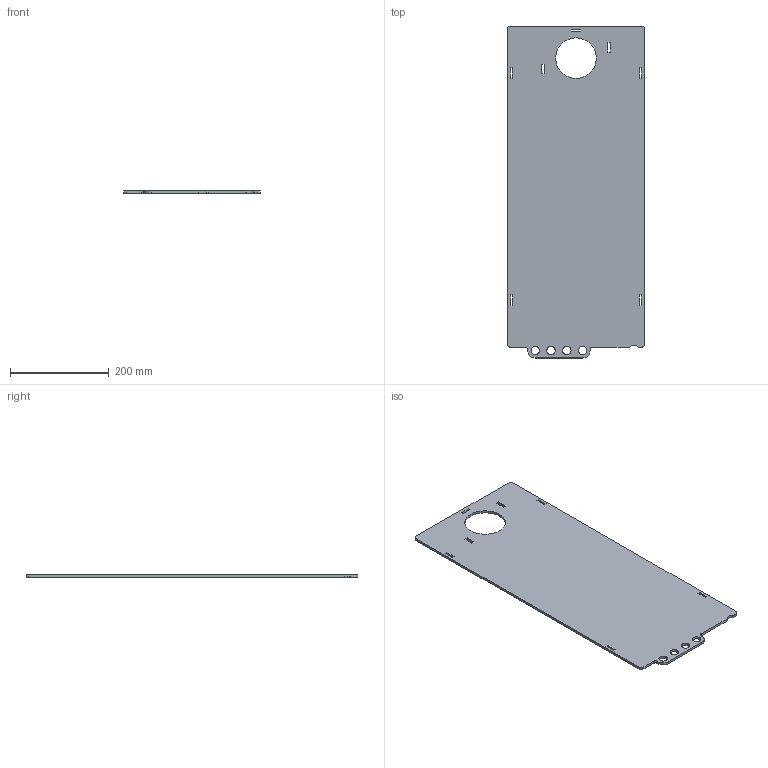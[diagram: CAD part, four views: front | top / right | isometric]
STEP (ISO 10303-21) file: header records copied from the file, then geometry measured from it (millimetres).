
FILE_DESCRIPTION((''),'2;1');
FILE_NAME('288081','2022-12-02T13:29:30',('vmorco'),(''),'CREO PARAMETRIC BY PTC INC, 2020454','CREO PARAMETRIC BY PTC INC, 2020454','');
FILE_SCHEMA(('AUTOMOTIVE_DESIGN { 1 0 10303 214 1 1 1 1 }'));
Length unit declared in the file: millimetre
Products named in the file (1): 288081
Bounding box: 277 x 672 x 5 mm (x, y, z)
Volume: 879051.8 mm3; surface area: 365148.7 mm2
Topology: 1 solids, 1 shells, 60 faces, 174 edges, 116 vertices
Faces by surface type: plane 39, cylinder 21
Entity records: 2099 total; most frequent: CARTESIAN_POINT 352, ORIENTED_EDGE 348, DIRECTION 336, EDGE_CURVE 174, VECTOR 132, LINE 132, VERTEX_POINT 116, AXIS2_PLACEMENT_3D 102
